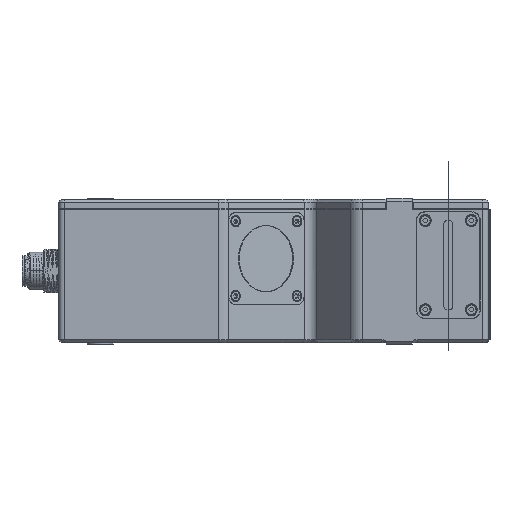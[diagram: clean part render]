
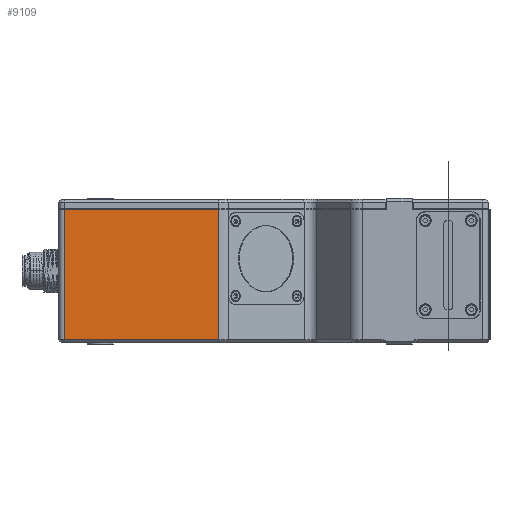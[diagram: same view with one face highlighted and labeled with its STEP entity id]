
A CAD part, front view. The second image highlights one B-rep face of the part: STEP entity #9109.
In plain terms, the highlighted planar face has unit normal (0, 1, 0).
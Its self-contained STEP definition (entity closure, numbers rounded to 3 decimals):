
#3339=DIRECTION('',(0.,0.,-1.));
#3340=VECTOR('',#3339,45.3);
#3341=CARTESIAN_POINT('',(-8.5,-92.5,44.15));
#3342=LINE('',#3341,#3340);
#3347=DIRECTION('',(-1.,0.,0.));
#3348=VECTOR('',#3347,53.608);
#3349=CARTESIAN_POINT('',(45.108,-92.5,44.15));
#3350=LINE('',#3349,#3348);
#3351=DIRECTION('',(-1.,0.,0.));
#3352=VECTOR('',#3351,53.608);
#3353=CARTESIAN_POINT('',(45.108,-92.5,-1.15));
#3354=LINE('',#3353,#3352);
#3376=DIRECTION('',(0.,0.,1.));
#3377=VECTOR('',#3376,45.3);
#3378=CARTESIAN_POINT('',(45.108,-92.5,-1.15));
#3379=LINE('',#3378,#3377);
#8227=CARTESIAN_POINT('',(45.108,-92.5,44.15));
#8228=VERTEX_POINT('',#8227);
#8229=CARTESIAN_POINT('',(-8.5,-92.5,44.15));
#8230=VERTEX_POINT('',#8229);
#8254=CARTESIAN_POINT('',(45.108,-92.5,-1.15));
#8255=VERTEX_POINT('',#8254);
#8256=CARTESIAN_POINT('',(-8.5,-92.5,-1.15));
#8257=VERTEX_POINT('',#8256);
#9095=CARTESIAN_POINT('',(18.304,-92.5,21.5));
#9096=DIRECTION('',(0.,1.,0.));
#9097=DIRECTION('',(1.,0.,0.));
#9098=AXIS2_PLACEMENT_3D('',#9095,#9096,#9097);
#9099=PLANE('',#9098);
#9101=ORIENTED_EDGE('',*,*,#9100,.F.);
#9103=ORIENTED_EDGE('',*,*,#9102,.T.);
#9105=ORIENTED_EDGE('',*,*,#9104,.T.);
#9106=ORIENTED_EDGE('',*,*,#9087,.T.);
#9107=EDGE_LOOP('',(#9101,#9103,#9105,#9106));
#9108=FACE_OUTER_BOUND('',#9107,.F.);
#9087=EDGE_CURVE('',#8230,#8257,#3342,.T.);
#9100=EDGE_CURVE('',#8255,#8257,#3354,.T.);
#9102=EDGE_CURVE('',#8255,#8228,#3379,.T.);
#9104=EDGE_CURVE('',#8228,#8230,#3350,.T.);
#9109=ADVANCED_FACE('',(#9108),#9099,.T.);
